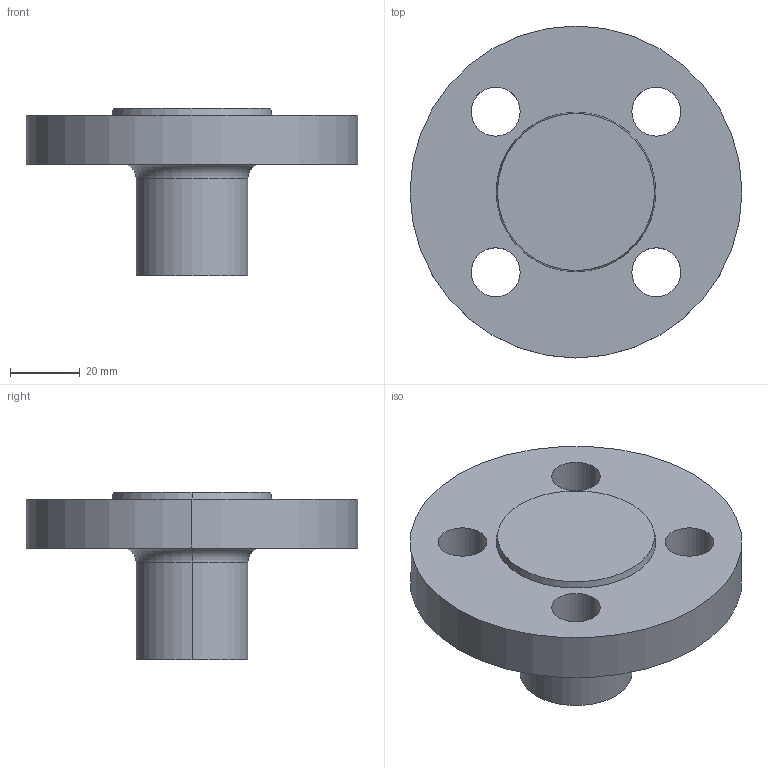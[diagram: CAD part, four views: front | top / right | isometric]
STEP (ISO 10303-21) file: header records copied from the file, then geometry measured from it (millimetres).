
FILE_DESCRIPTION (( 'STEP AP214' ), '1' );
FILE_NAME ('PN40 DN15 Type 21(i) - Type B Face.STEP', '2018-12-29T14:30:02', ( '' ), ( '' ), 'SwSTEP 2.0', 'SolidWorks 2019', '' );
FILE_SCHEMA (( 'AUTOMOTIVE_DESIGN' ));
Length unit declared in the file: millimetre
Products named in the file (1): PN40 DN15 Type 21(i) - Type B Face
Bounding box: 95 x 95 x 48 mm (x, y, z)
Volume: 119945.9 mm3; surface area: 22876.9 mm2
Topology: 1 solids, 1 shells, 20 faces, 46 edges, 30 vertices
Faces by surface type: cylinder 12, plane 4, torus 2, cone 2
Entity records: 636 total; most frequent: DIRECTION 120, CARTESIAN_POINT 97, ORIENTED_EDGE 92, AXIS2_PLACEMENT_3D 53, EDGE_CURVE 46, CIRCLE 32, EDGE_LOOP 30, VERTEX_POINT 30
